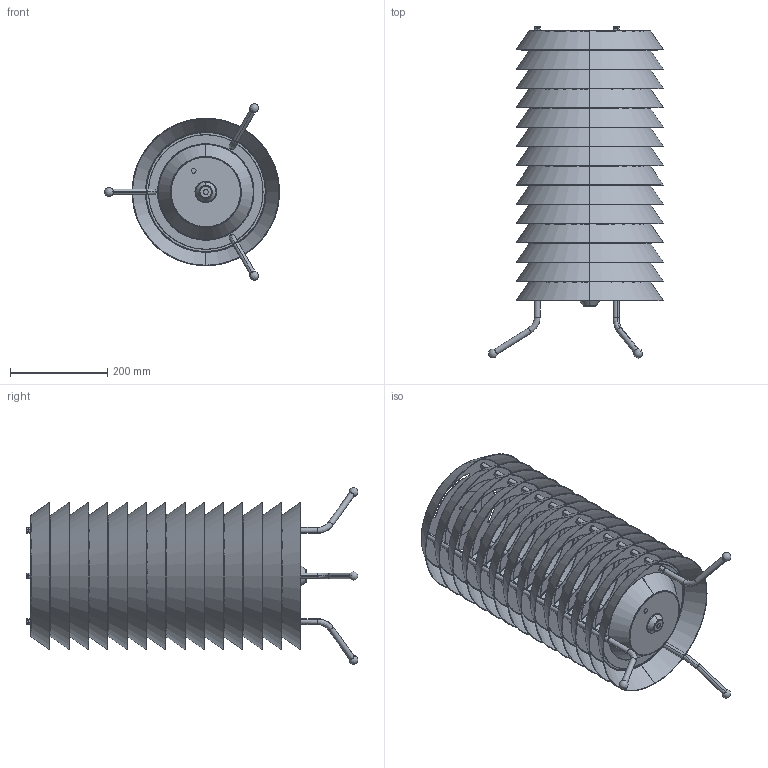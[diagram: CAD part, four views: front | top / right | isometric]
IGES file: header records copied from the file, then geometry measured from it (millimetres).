
Start section: SolidWorks IGES file using analytic representation for surfaces
Global section: file name: C:\SANTACOLE_PDM\Proyectos Catálogo\PROD-P14-013 -- MAIJA LED\6_Técnico comercial\3D\Maija30\Maija30.IGS; native system: SolidWorks 2019; preprocessor: SolidWorks 2019; author: louis.ferraz; date: 200402.162220; units: millimetre
Bounding box: 359 x 680.83 x 362.21 mm (x, y, z)
Surface area: 2213421.5 mm2 (no closed solid volume)
Topology: 0 solids, 0 shells, 827 faces, 19636 edges, 19606 vertices
Faces by surface type: revolution 542, bspline 285
